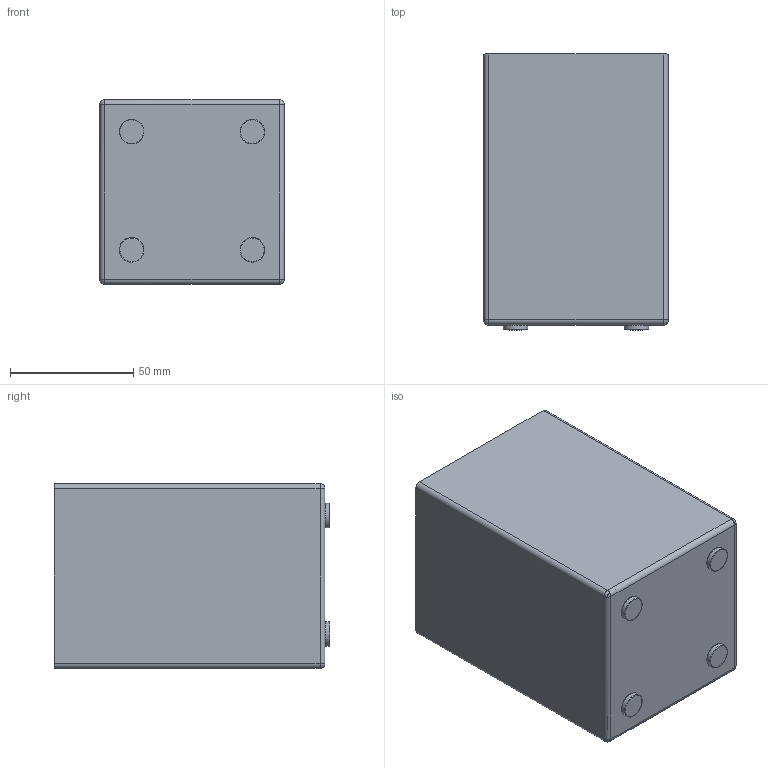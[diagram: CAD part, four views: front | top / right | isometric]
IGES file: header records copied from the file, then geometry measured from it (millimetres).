
Global section: file name: Kubek na szczoteczki FOGHI; native system: Autodesk Inventor 2018; preprocessor: unknown; author: Verical; date: 20210512.163406; units: millimetre
Bounding box: 75 x 112 x 75 mm (x, y, z)
Volume: 54265.9 mm3; surface area: 100569.3 mm2
Topology: 1 solids, 1 shells, 147 faces, 371 edges, 236 vertices
Faces by surface type: bspline 147
